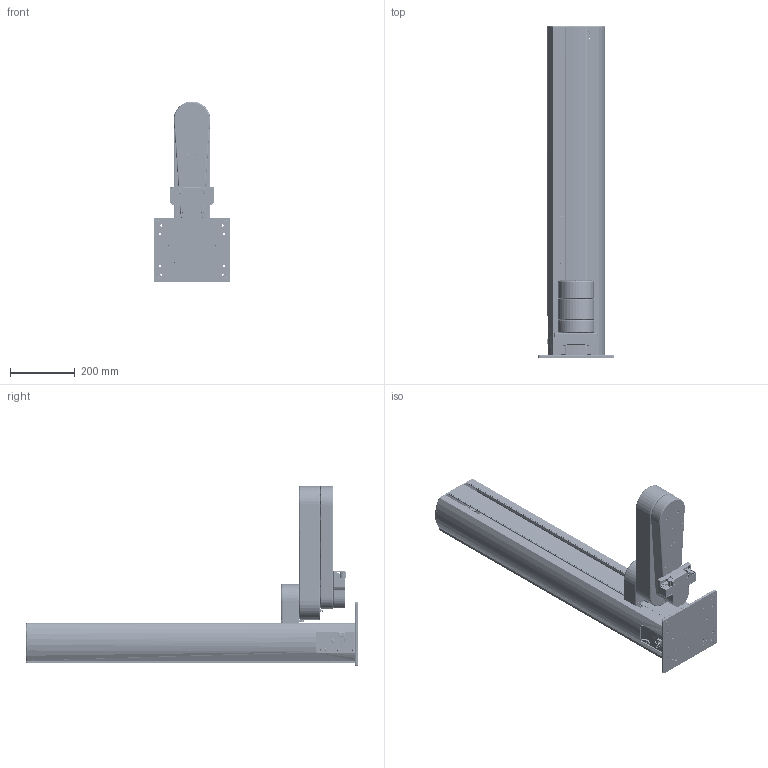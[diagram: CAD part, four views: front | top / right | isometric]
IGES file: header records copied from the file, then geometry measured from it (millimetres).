
Start section: SolidWorks IGES file using analytic representation for surfaces
Bounding box: 235.1 x 1028.95 x 561 mm (x, y, z)
Surface area: 2668136 mm2 (no closed solid volume)
Topology: 0 solids, 0 shells, 11264 faces, 148684 edges, 148477 vertices
Faces by surface type: revolution 5987, bspline 5277
